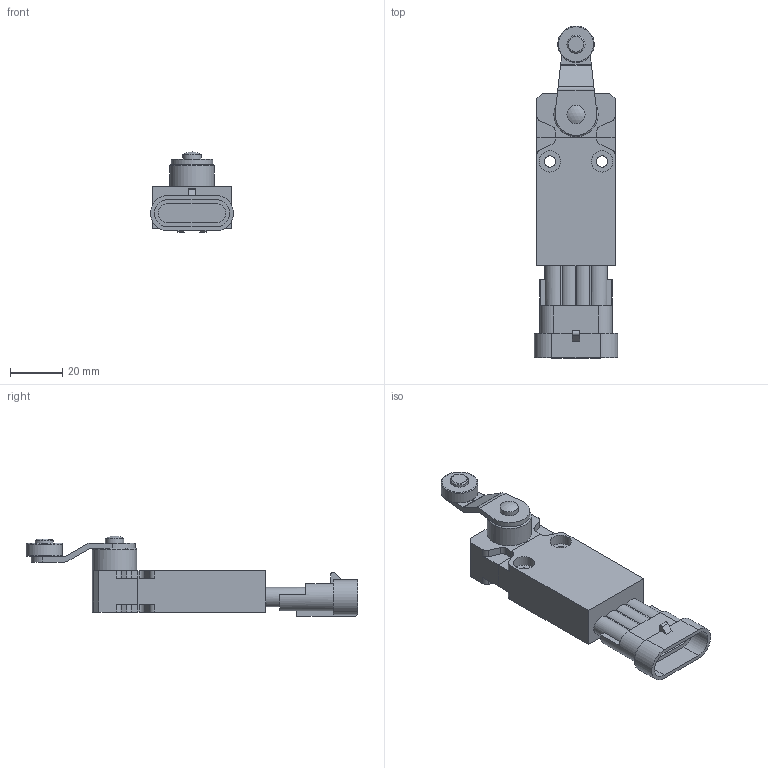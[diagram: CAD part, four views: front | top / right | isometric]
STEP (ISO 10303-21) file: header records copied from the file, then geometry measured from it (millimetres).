
FILE_DESCRIPTION(/* description */ (''),/* implementation_level */ '2;1');
FILE_NAME(/* name */ 'C:\Users\servizio.tecnico\Desktop\CADENAS\3D\EP1_STP\STP_EP1_G43A.stp',/* time_stamp */ '2017-09-04T10:07:19+02:00',/* author */ ('servizio.tecnico'),/* organization */ (''),/* preprocessor_version */ 'ST-DEVELOPER v16.1',/* originating_system */ 'Autodesk Inventor 2016',/* authorisation */ '');
FILE_SCHEMA (('AUTOMOTIVE_DESIGN { 1 0 10303 214 3 1 1 }'));
Length unit declared in the file: millimetre
Products named in the file (3): Product; EP1G43-A; BASE ASSI 
Assembly tree (2 placements, depth 3):
  BASE ASSI 
    EP1G43-A
      Product
Bounding box: 32 x 127.5 x 30.78 mm (x, y, z)
Volume: 39243.7 mm3; surface area: 15183.5 mm2
Topology: 4 solids, 4 shells, 170 faces, 445 edges, 295 vertices
Faces by surface type: plane 106, cylinder 59, torus 3, cone 1, sphere 1
Full cylindrical faces by diameter (mm): 4.4 x2, 5 x2, 7 x2, 8.2 x4, 14 x1, 17 x1
Entity records: 5288 total; most frequent: DIRECTION 900, CARTESIAN_POINT 887, ORIENTED_EDGE 846, EDGE_CURVE 423, AXIS2_PLACEMENT_3D 302, LINE 296, VECTOR 296, VERTEX_POINT 289
